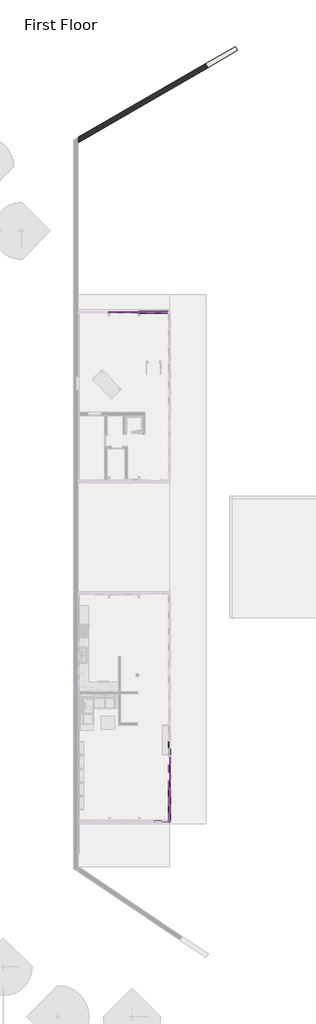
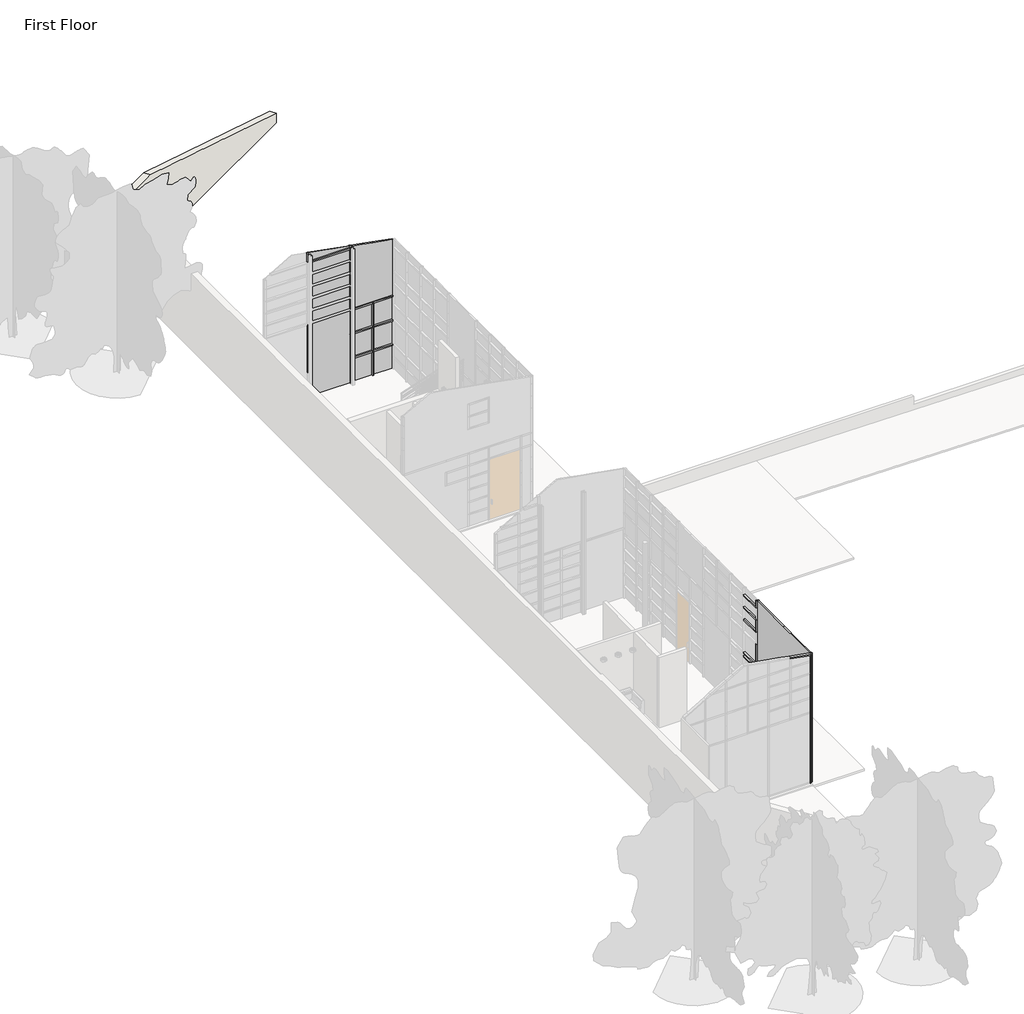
# One storey, part 4 of 9: 83 members, 28 plates, 1 wall.
"""IFC4 building model written with IfcOpenShell, lengths in millimetres."""

from ifc_helpers import new_model, si_unit, origin, place, context, project, spatial, faceted_brep, transform, mapped, element, save
from components import rectangular_mullion_rectangular_mullion_1_d8954efc, rectangular_mullion_rectangular_mullion_1_ae5c687b, rectangular_mullion_rectangular_mullion_1_99cf9c75, rectangular_mullion_rectangular_mullion_1_30cce679, rectangular_mullion_rectangular_mullion_1_136a39fb, rectangular_mullion_rectangular_mullion_1_6590179b, rectangular_mullion_rectangular_mullion_1_783bfc0b, rectangular_mullion_rectangular_mullion_1_92514b8e, rectangular_mullion_rectangular_mullion_1_1f17a5e5, rectangular_mullion_rectangular_mullion_1_1cede359, rectangular_mullion_rectangular_mullion_1_8c79227d, rectangular_mullion_rectangular_mullion_1_871cc721, rectangular_mullion_rectangular_mullion_1_6e77e263, rectangular_mullion_rectangular_mullion_1_eb8fac3f, rectangular_mullion_rectangular_mullion_1_9a090e39, rectangular_mullion_rectangular_mullion_1_7c80449b, rectangular_mullion_rectangular_mullion_1_45287f10, rectangular_mullion_rectangular_mullion_1_2b49869a, rectangular_mullion_rectangular_mullion_1_a0a52acd, rectangular_mullion_rectangular_mullion_1_47bfaf8a, rectangular_mullion_rectangular_mullion_1_ec152034, rectangular_mullion_rectangular_mullion_1_d7ed0fb9, rectangular_mullion_rectangular_mullion_1_9d77b909, rectangular_mullion_rectangular_mullion_1_f2e3b31c, rectangular_mullion_rectangular_mullion_1_c5a7d1f2, rectangular_mullion_rectangular_mullion_1_0b7f9064, system_panel_glazed_373d86ac, system_panel_glazed_eecd68d4, system_panel_glazed_8c85efa3, system_panel_glazed_14bd28ca, system_panel_glazed_82a64896, system_panel_glazed_041fdfaf, system_panel_glazed_c7baee26, system_panel_glazed_ae41f1da, system_panel_glazed_664bf825, system_panel_glazed_dff80833, system_panel_glazed_a1854eb2, system_panel_glazed_2ec935a0, system_panel_glazed_f1ae0be2, system_panel_glazed_68a4d442, system_panel_glazed_40caf1cd, system_panel_glazed_62b14354, system_panel_solid_red_bf65e7b4, system_panel_solid_white_665c4a0c, system_panel_solid_white_46dfe60e

model = new_model("IFC4")

# Units and contexts
model_context = context("Model", 3, world=origin())
ifc_project = project(units=[si_unit("LENGTHUNIT", "METRE", prefix="MILLI")], contexts=[model_context])

# Site, building, storey
site = spatial("IfcSite", under=ifc_project)
building = spatial("IfcBuilding", under=site)
storey = spatial("IfcBuildingStorey", under=building, Name="First Floor", Elevation=0.0)

# Members
placement = place(None, origin())
rectangular_mullion_rectangular_mullion_1_shape = rectangular_mullion_rectangular_mullion_1_d8954efc(model_context)
element("IfcMember", 1, ObjectType="Rectangular Mullion : Rectangular Mullion 1", at=placement, inside=storey, context=model_context, shape_type="MappedRepresentation", body=[
    mapped(rectangular_mullion_rectangular_mullion_1_shape, transform((-2042.7901664, 35648.7084583, 6705.6), x_axis=(-1.0, 0.0, 0.0), y_axis=(0.0, 1.0, 0.0), z_axis=(0.0, 0.0, -1.0))),
])
rectangular_mullion_rectangular_mullion_1_2_shape = rectangular_mullion_rectangular_mullion_1_ae5c687b(model_context)
element("IfcMember", 2, ObjectType="Rectangular Mullion : Rectangular Mullion 1", at=placement, inside=storey, context=model_context, shape_type="MappedRepresentation", body=[
    mapped(rectangular_mullion_rectangular_mullion_1_2_shape, transform((-4062.0901664, 35648.7084583, 6705.6), x_axis=(-1.0, 0.0, 0.0), y_axis=(0.0, 1.0, 0.0), z_axis=(0.0, 0.0, -1.0))),
])
rectangular_mullion_rectangular_mullion_1_3_shape = rectangular_mullion_rectangular_mullion_1_99cf9c75(model_context)
element("IfcMember", 3, ObjectType="Rectangular Mullion : Rectangular Mullion 1", at=placement, inside=storey, context=model_context, shape_type="MappedRepresentation", body=[
    mapped(rectangular_mullion_rectangular_mullion_1_3_shape, transform((-2042.7901664, 35648.7084583, 3647.5475583), x_axis=(-1.0, 0.0, 0.0), y_axis=(0.0, 1.0, 0.0), z_axis=(0.0, 0.0, -1.0))),
])
rectangular_mullion_rectangular_mullion_1_4_shape = rectangular_mullion_rectangular_mullion_1_30cce679(model_context)
element("IfcMember", 4, ObjectType="Rectangular Mullion : Rectangular Mullion 1", at=placement, inside=storey, context=model_context, shape_type="MappedRepresentation", body=[
    mapped(rectangular_mullion_rectangular_mullion_1_4_shape, transform((-989.7484998, 35648.7084583, 2438.4), x_axis=(-1.0, 0.0, 0.0), y_axis=(0.0, 1.0, 0.0), z_axis=(0.0, 0.0, -1.0))),
])
rectangular_mullion_rectangular_mullion_1_5_shape = rectangular_mullion_rectangular_mullion_1_136a39fb(model_context)
element("IfcMember", 5, ObjectType="Rectangular Mullion : Rectangular Mullion 1", at=placement, inside=storey, context=model_context, shape_type="MappedRepresentation", body=[
    mapped(rectangular_mullion_rectangular_mullion_1_5_shape, transform((-2042.7901664, 35648.7084583, 2438.4), x_axis=(-1.0, 0.0, 0.0), y_axis=(0.0, 1.0, 0.0), z_axis=(0.0, 0.0, -1.0))),
])
element("IfcMember", 6, ObjectType="Rectangular Mullion : Rectangular Mullion 1", at=placement, inside=storey, context=model_context, shape_type="MappedRepresentation", body=[
    mapped(rectangular_mullion_rectangular_mullion_1_5_shape, transform((-4062.0901664, 35648.7084583, 2438.4), x_axis=(-1.0, 0.0, 0.0), y_axis=(0.0, 1.0, 0.0), z_axis=(0.0, 0.0, -1.0))),
])
rectangular_mullion_rectangular_mullion_1_6_shape = rectangular_mullion_rectangular_mullion_1_6590179b(model_context)
element("IfcMember", 7, ObjectType="Rectangular Mullion : Rectangular Mullion 1", at=placement, inside=storey, context=model_context, shape_type="MappedRepresentation", body=[
    mapped(rectangular_mullion_rectangular_mullion_1_6_shape, transform((8.2598336, 5879.0013154, 3219.3104781), x_axis=(0.0, -1.0, 0.0), y_axis=(-1.0, 0.0, 0.0), z_axis=(0.0, 0.0, -1.0))),
])
rectangular_mullion_rectangular_mullion_1_7_shape = rectangular_mullion_rectangular_mullion_1_783bfc0b(model_context)
element("IfcMember", 8, ObjectType="Rectangular Mullion : Rectangular Mullion 1", at=placement, inside=storey, context=model_context, shape_type="MappedRepresentation", body=[
    mapped(rectangular_mullion_rectangular_mullion_1_7_shape, transform((8.2598336, 5879.0013154, 3048.0), x_axis=(0.0, -1.0, 0.0), y_axis=(-1.0, 0.0, 0.0), z_axis=(0.0, 0.0, -1.0))),
])
rectangular_mullion_rectangular_mullion_1_8_shape = rectangular_mullion_rectangular_mullion_1_92514b8e(model_context)
element("IfcMember", 9, ObjectType="Rectangular Mullion : Rectangular Mullion 1", at=placement, inside=storey, context=model_context, shape_type="MappedRepresentation", body=[
    mapped(rectangular_mullion_rectangular_mullion_1_8_shape, transform((8.2598336, 3710.9298869, 3048.0), x_axis=(0.0, -1.0, 0.0), y_axis=(-1.0, 0.0, 0.0), z_axis=(0.0, 0.0, -1.0))),
])
element("IfcMember", 10, ObjectType="Rectangular Mullion : Rectangular Mullion 1", at=placement, inside=storey, context=model_context, shape_type="MappedRepresentation", body=[
    mapped(rectangular_mullion_rectangular_mullion_1_8_shape, transform((8.2598336, 2588.3406011, 3048.0), x_axis=(0.0, -1.0, 0.0), y_axis=(-1.0, 0.0, 0.0), z_axis=(0.0, 0.0, -1.0))),
])
rectangular_mullion_rectangular_mullion_1_9_shape = rectangular_mullion_rectangular_mullion_1_1f17a5e5(model_context)
element("IfcMember", 11, ObjectType="Rectangular Mullion : Rectangular Mullion 1", at=placement, inside=storey, context=model_context, shape_type="MappedRepresentation", body=[
    mapped(rectangular_mullion_rectangular_mullion_1_9_shape, transform((8.2598336, 5879.0013154, 6096.0), x_axis=(0.0, -1.0, 0.0), y_axis=(-1.0, 0.0, 0.0), z_axis=(0.0, 0.0, -1.0))),
])
rectangular_mullion_rectangular_mullion_1_10_shape = rectangular_mullion_rectangular_mullion_1_1cede359(model_context)
element("IfcMember", 12, ObjectType="Rectangular Mullion : Rectangular Mullion 1", at=placement, inside=storey, context=model_context, shape_type="MappedRepresentation", body=[
    mapped(rectangular_mullion_rectangular_mullion_1_10_shape, transform((8.2598336, 1511.1084583, 6096.0), x_axis=(0.0, -1.0, 0.0), y_axis=(-1.0, 0.0, 0.0), z_axis=(0.0, 0.0, -1.0))),
])
rectangular_mullion_rectangular_mullion_1_11_shape = rectangular_mullion_rectangular_mullion_1_8c79227d(model_context)
element("IfcMember", 13, ObjectType="Rectangular Mullion : Rectangular Mullion 1", at=placement, inside=storey, context=model_context, shape_type="MappedRepresentation", body=[
    mapped(rectangular_mullion_rectangular_mullion_1_11_shape, transform((8.2598336, 1511.1084583, 3048.0), x_axis=(0.0, -1.0, 0.0), y_axis=(-1.0, 0.0, 0.0), z_axis=(0.0, 0.0, -1.0))),
])
rectangular_mullion_rectangular_mullion_1_12_shape = rectangular_mullion_rectangular_mullion_1_871cc721(model_context)
element("IfcMember", 14, ObjectType="Rectangular Mullion : Rectangular Mullion 1", at=placement, inside=storey, context=model_context, shape_type="MappedRepresentation", body=[
    mapped(rectangular_mullion_rectangular_mullion_1_12_shape, transform((8.2598336, 1511.1084583, 3219.3104781), x_axis=(0.0, -1.0, 0.0), y_axis=(-1.0, 0.0, 0.0), z_axis=(0.0, 0.0, -1.0))),
])
rectangular_mullion_rectangular_mullion_1_13_shape = rectangular_mullion_rectangular_mullion_1_6e77e263(model_context)
element("IfcMember", 15, ObjectType="Rectangular Mullion : Rectangular Mullion 1", at=placement, inside=storey, context=model_context, shape_type="MappedRepresentation", body=[
    mapped(rectangular_mullion_rectangular_mullion_1_13_shape, transform((8.2598336, 5879.0013154, 2438.4), x_axis=(0.0, -1.0, 0.0), y_axis=(-1.0, 0.0, 0.0), z_axis=(0.0, 0.0, -1.0))),
])
element("IfcMember", 16, ObjectType="Rectangular Mullion : Rectangular Mullion 1", at=placement, inside=storey, context=model_context, shape_type="MappedRepresentation", body=[
    mapped(rectangular_mullion_rectangular_mullion_1_13_shape, transform((8.2598336, 3710.9298869, 2438.4), x_axis=(0.0, -1.0, 0.0), y_axis=(-1.0, 0.0, 0.0), z_axis=(0.0, 0.0, -1.0))),
])
element("IfcMember", 17, ObjectType="Rectangular Mullion : Rectangular Mullion 1", at=placement, inside=storey, context=model_context, shape_type="MappedRepresentation", body=[
    mapped(rectangular_mullion_rectangular_mullion_1_13_shape, transform((8.2598336, 2588.3406011, 2438.4), x_axis=(0.0, -1.0, 0.0), y_axis=(-1.0, 0.0, 0.0), z_axis=(0.0, 0.0, -1.0))),
])
element("IfcMember", 18, ObjectType="Rectangular Mullion : Rectangular Mullion 1", at=placement, inside=storey, context=model_context, shape_type="MappedRepresentation", body=[
    mapped(rectangular_mullion_rectangular_mullion_1_13_shape, transform((8.2598336, 5879.0013154, 1219.2), x_axis=(0.0, -1.0, 0.0), y_axis=(-1.0, 0.0, 0.0), z_axis=(0.0, 0.0, -1.0))),
])
element("IfcMember", 19, ObjectType="Rectangular Mullion : Rectangular Mullion 1", at=placement, inside=storey, context=model_context, shape_type="MappedRepresentation", body=[
    mapped(rectangular_mullion_rectangular_mullion_1_13_shape, transform((8.2598336, 3710.9298869, 1219.2), x_axis=(0.0, -1.0, 0.0), y_axis=(-1.0, 0.0, 0.0), z_axis=(0.0, 0.0, -1.0))),
])
element("IfcMember", 20, ObjectType="Rectangular Mullion : Rectangular Mullion 1", at=placement, inside=storey, context=model_context, shape_type="MappedRepresentation", body=[
    mapped(rectangular_mullion_rectangular_mullion_1_13_shape, transform((8.2598336, 2588.3406011, 1219.2), x_axis=(0.0, -1.0, 0.0), y_axis=(-1.0, 0.0, 0.0), z_axis=(0.0, 0.0, -1.0))),
])
element("IfcMember", 21, ObjectType="Rectangular Mullion : Rectangular Mullion 1", at=placement, inside=storey, context=model_context, shape_type="MappedRepresentation", body=[
    mapped(rectangular_mullion_rectangular_mullion_1_13_shape, transform((8.2598336, 5879.0013154, 1828.8), x_axis=(0.0, -1.0, 0.0), y_axis=(-1.0, 0.0, 0.0), z_axis=(0.0, 0.0, -1.0))),
])
element("IfcMember", 22, ObjectType="Rectangular Mullion : Rectangular Mullion 1", at=placement, inside=storey, context=model_context, shape_type="MappedRepresentation", body=[
    mapped(rectangular_mullion_rectangular_mullion_1_13_shape, transform((8.2598336, 3710.9298869, 1828.8), x_axis=(0.0, -1.0, 0.0), y_axis=(-1.0, 0.0, 0.0), z_axis=(0.0, 0.0, -1.0))),
])
element("IfcMember", 23, ObjectType="Rectangular Mullion : Rectangular Mullion 1", at=placement, inside=storey, context=model_context, shape_type="MappedRepresentation", body=[
    mapped(rectangular_mullion_rectangular_mullion_1_13_shape, transform((8.2598336, 2588.3406011, 1828.8), x_axis=(0.0, -1.0, 0.0), y_axis=(-1.0, 0.0, 0.0), z_axis=(0.0, 0.0, -1.0))),
])
element("IfcMember", 24, ObjectType="Rectangular Mullion : Rectangular Mullion 1", at=placement, inside=storey, context=model_context, shape_type="MappedRepresentation", body=[
    mapped(rectangular_mullion_rectangular_mullion_1_13_shape, transform((8.2598336, 5879.0013154, 609.6), x_axis=(0.0, -1.0, 0.0), y_axis=(-1.0, 0.0, 0.0), z_axis=(0.0, 0.0, -1.0))),
])
element("IfcMember", 25, ObjectType="Rectangular Mullion : Rectangular Mullion 1", at=placement, inside=storey, context=model_context, shape_type="MappedRepresentation", body=[
    mapped(rectangular_mullion_rectangular_mullion_1_13_shape, transform((8.2598336, 3710.9298869, 609.6), x_axis=(0.0, -1.0, 0.0), y_axis=(-1.0, 0.0, 0.0), z_axis=(0.0, 0.0, -1.0))),
])
element("IfcMember", 26, ObjectType="Rectangular Mullion : Rectangular Mullion 1", at=placement, inside=storey, context=model_context, shape_type="MappedRepresentation", body=[
    mapped(rectangular_mullion_rectangular_mullion_1_13_shape, transform((8.2598336, 2588.3406011, 609.6), x_axis=(0.0, -1.0, 0.0), y_axis=(-1.0, 0.0, 0.0), z_axis=(0.0, 0.0, -1.0))),
])
element("IfcMember", 27, ObjectType="Rectangular Mullion : Rectangular Mullion 1", at=placement, inside=storey, context=model_context, shape_type="MappedRepresentation", body=[
    mapped(rectangular_mullion_rectangular_mullion_1_13_shape, transform((8.2598336, 5879.0013154, 4876.8), x_axis=(0.0, -1.0, 0.0), y_axis=(-1.0, 0.0, 0.0), z_axis=(0.0, 0.0, -1.0))),
])
element("IfcMember", 28, ObjectType="Rectangular Mullion : Rectangular Mullion 1", at=placement, inside=storey, context=model_context, shape_type="MappedRepresentation", body=[
    mapped(rectangular_mullion_rectangular_mullion_1_13_shape, transform((8.2598336, 5879.0013154, 0.0), x_axis=(0.0, -1.0, 0.0), y_axis=(-1.0, 0.0, 0.0), z_axis=(0.0, 0.0, -1.0))),
])
element("IfcMember", 29, ObjectType="Rectangular Mullion : Rectangular Mullion 1", at=placement, inside=storey, context=model_context, shape_type="MappedRepresentation", body=[
    mapped(rectangular_mullion_rectangular_mullion_1_13_shape, transform((8.2598336, 3710.9298869, 0.0), x_axis=(0.0, -1.0, 0.0), y_axis=(-1.0, 0.0, 0.0), z_axis=(0.0, 0.0, -1.0))),
])
element("IfcMember", 30, ObjectType="Rectangular Mullion : Rectangular Mullion 1", at=placement, inside=storey, context=model_context, shape_type="MappedRepresentation", body=[
    mapped(rectangular_mullion_rectangular_mullion_1_13_shape, transform((8.2598336, 2588.3406011, 0.0), x_axis=(0.0, -1.0, 0.0), y_axis=(-1.0, 0.0, 0.0), z_axis=(0.0, 0.0, -1.0))),
])
rectangular_mullion_rectangular_mullion_1_14_shape = rectangular_mullion_rectangular_mullion_1_eb8fac3f(model_context)
element("IfcMember", 31, ObjectType="Rectangular Mullion : Rectangular Mullion 1", at=placement, inside=storey, context=model_context, shape_type="MappedRepresentation", body=[
    mapped(rectangular_mullion_rectangular_mullion_1_14_shape, transform((8.2598336, 1511.1084583, 6438.6209562), x_axis=(0.17364817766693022, 0.0, 0.9848077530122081), y_axis=(0.0, -1.0, 0.0), z_axis=(0.9848077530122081, 0.0, -0.17364817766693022))),
])
rectangular_mullion_rectangular_mullion_1_15_shape = rectangular_mullion_rectangular_mullion_1_9a090e39(model_context)
element("IfcMember", 32, ObjectType="Rectangular Mullion : Rectangular Mullion 1", at=placement, inside=storey, context=model_context, shape_type="MappedRepresentation", body=[
    mapped(rectangular_mullion_rectangular_mullion_1_15_shape, transform((8.2598336, 1511.1084583, 6096.0), x_axis=(1.0, 0.0, 0.0), y_axis=(0.0, -1.0, 0.0), z_axis=(0.0, 0.0, -1.0))),
])
rectangular_mullion_rectangular_mullion_1_16_shape = rectangular_mullion_rectangular_mullion_1_7c80449b(model_context)
element("IfcMember", 33, ObjectType="Rectangular Mullion : Rectangular Mullion 1", at=placement, inside=storey, context=model_context, shape_type="MappedRepresentation", body=[
    mapped(rectangular_mullion_rectangular_mullion_1_16_shape, transform((8.2598336, 1511.1084583, 3533.2473635), x_axis=(1.0, 0.0, 0.0), y_axis=(0.0, -1.0, 0.0), z_axis=(0.0, 0.0, -1.0))),
])
rectangular_mullion_rectangular_mullion_1_17_shape = rectangular_mullion_rectangular_mullion_1_45287f10(model_context)
element("IfcMember", 34, ObjectType="Rectangular Mullion : Rectangular Mullion 1", at=placement, inside=storey, context=model_context, shape_type="MappedRepresentation", body=[
    mapped(rectangular_mullion_rectangular_mullion_1_17_shape, transform((8.2598336, 1511.1084583, 0.0), x_axis=(1.0, 0.0, 0.0), y_axis=(0.0, -1.0, 0.0), z_axis=(0.0, 0.0, -1.0))),
])
rectangular_mullion_rectangular_mullion_1_18_shape = rectangular_mullion_rectangular_mullion_1_2b49869a(model_context)
element("IfcMember", 35, ObjectType="Rectangular Mullion : Rectangular Mullion 1", at=placement, inside=storey, context=model_context, shape_type="MappedRepresentation", body=[
    mapped(rectangular_mullion_rectangular_mullion_1_18_shape, transform((-989.7484998, 35648.7084583, 1219.2), x_axis=(-1.0, 0.0, 0.0), y_axis=(0.0, 1.0, 0.0), z_axis=(0.0, 0.0, -1.0))),
])
element("IfcMember", 36, ObjectType="Rectangular Mullion : Rectangular Mullion 1", at=placement, inside=storey, context=model_context, shape_type="MappedRepresentation", body=[
    mapped(rectangular_mullion_rectangular_mullion_1_18_shape, transform((-2042.7901664, 35648.7084583, 1219.2), x_axis=(-1.0, 0.0, 0.0), y_axis=(0.0, 1.0, 0.0), z_axis=(0.0, 0.0, -1.0))),
])
element("IfcMember", 37, ObjectType="Rectangular Mullion : Rectangular Mullion 1", at=placement, inside=storey, context=model_context, shape_type="MappedRepresentation", body=[
    mapped(rectangular_mullion_rectangular_mullion_1_13_shape, transform((-2042.7901664, 35648.7084583, 6096.0), x_axis=(-1.0, 0.0, 0.0), y_axis=(0.0, 1.0, 0.0), z_axis=(0.0, 0.0, -1.0))),
])
element("IfcMember", 38, ObjectType="Rectangular Mullion : Rectangular Mullion 1", at=placement, inside=storey, context=model_context, shape_type="MappedRepresentation", body=[
    mapped(rectangular_mullion_rectangular_mullion_1_13_shape, transform((-2042.7901664, 35648.7084583, 4876.8), x_axis=(-1.0, 0.0, 0.0), y_axis=(0.0, 1.0, 0.0), z_axis=(0.0, 0.0, -1.0))),
])
element("IfcMember", 39, ObjectType="Rectangular Mullion : Rectangular Mullion 1", at=placement, inside=storey, context=model_context, shape_type="MappedRepresentation", body=[
    mapped(rectangular_mullion_rectangular_mullion_1_13_shape, transform((-2042.7901664, 35648.7084583, 5486.4), x_axis=(-1.0, 0.0, 0.0), y_axis=(0.0, 1.0, 0.0), z_axis=(0.0, 0.0, -1.0))),
])
element("IfcMember", 40, ObjectType="Rectangular Mullion : Rectangular Mullion 1", at=placement, inside=storey, context=model_context, shape_type="MappedRepresentation", body=[
    mapped(rectangular_mullion_rectangular_mullion_1_13_shape, transform((-2042.7901664, 35648.7084583, 4267.2), x_axis=(-1.0, 0.0, 0.0), y_axis=(0.0, 1.0, 0.0), z_axis=(0.0, 0.0, -1.0))),
])
element("IfcMember", 41, ObjectType="Rectangular Mullion : Rectangular Mullion 1", at=placement, inside=storey, context=model_context, shape_type="MappedRepresentation", body=[
    mapped(rectangular_mullion_rectangular_mullion_1_18_shape, transform((-2042.7901664, 35648.7084583, 0.0), x_axis=(-1.0, 0.0, 0.0), y_axis=(0.0, 1.0, 0.0), z_axis=(0.0, 0.0, -1.0))),
])
element("IfcMember", 42, ObjectType="Rectangular Mullion : Rectangular Mullion 1", at=placement, inside=storey, context=model_context, shape_type="MappedRepresentation", body=[
    mapped(rectangular_mullion_rectangular_mullion_1_18_shape, transform((-989.7484998, 35648.7084583, 0.0), x_axis=(-1.0, 0.0, 0.0), y_axis=(0.0, 1.0, 0.0), z_axis=(0.0, 0.0, -1.0))),
])
element("IfcMember", 43, ObjectType="Rectangular Mullion : Rectangular Mullion 1", at=placement, inside=storey, context=model_context, shape_type="MappedRepresentation", body=[
    mapped(rectangular_mullion_rectangular_mullion_1_18_shape, transform((-4062.0901664, 35648.7084583, 1219.2), x_axis=(-1.0, 0.0, 0.0), y_axis=(0.0, 1.0, 0.0), z_axis=(0.0, 0.0, -1.0))),
])
rectangular_mullion_rectangular_mullion_1_19_shape = rectangular_mullion_rectangular_mullion_1_a0a52acd(model_context)
element("IfcMember", 44, ObjectType="Rectangular Mullion : Rectangular Mullion 1", at=placement, inside=storey, context=model_context, shape_type="MappedRepresentation", body=[
    mapped(rectangular_mullion_rectangular_mullion_1_19_shape, transform((-957.9984998, 35648.7084583, 3647.5475583), x_axis=(0.0, 0.0, 1.0), y_axis=(0.0, 1.0, 0.0), z_axis=(-1.0, 0.0, 0.0))),
])
element("IfcMember", 45, ObjectType="Rectangular Mullion : Rectangular Mullion 1", at=placement, inside=storey, context=model_context, shape_type="MappedRepresentation", body=[
    mapped(rectangular_mullion_rectangular_mullion_1_19_shape, transform((-957.9984998, 35648.7084583, 2438.4), x_axis=(0.0, 0.0, 1.0), y_axis=(0.0, 1.0, 0.0), z_axis=(-1.0, 0.0, 0.0))),
])
element("IfcMember", 46, ObjectType="Rectangular Mullion : Rectangular Mullion 1", at=placement, inside=storey, context=model_context, shape_type="MappedRepresentation", body=[
    mapped(rectangular_mullion_rectangular_mullion_1_19_shape, transform((-957.9984998, 35648.7084583, 1219.2), x_axis=(0.0, 0.0, 1.0), y_axis=(0.0, 1.0, 0.0), z_axis=(-1.0, 0.0, 0.0))),
])
rectangular_mullion_rectangular_mullion_1_20_shape = rectangular_mullion_rectangular_mullion_1_47bfaf8a(model_context)
element("IfcMember", 47, ObjectType="Rectangular Mullion : Rectangular Mullion 1", at=placement, inside=storey, context=model_context, shape_type="MappedRepresentation", body=[
    mapped(rectangular_mullion_rectangular_mullion_1_20_shape, transform((8.2598336, 1511.1084583, 4267.2), x_axis=(1.0, 0.0, 0.0), y_axis=(0.0, -1.0, 0.0), z_axis=(0.0, 0.0, -1.0))),
])
element("IfcMember", 48, ObjectType="Rectangular Mullion : Rectangular Mullion 1", at=placement, inside=storey, context=model_context, shape_type="MappedRepresentation", body=[
    mapped(rectangular_mullion_rectangular_mullion_1_20_shape, transform((8.2598336, 1511.1084583, 5486.4), x_axis=(1.0, 0.0, 0.0), y_axis=(0.0, -1.0, 0.0), z_axis=(0.0, 0.0, -1.0))),
])
element("IfcMember", 49, ObjectType="Rectangular Mullion : Rectangular Mullion 1", at=placement, inside=storey, context=model_context, shape_type="MappedRepresentation", body=[
    mapped(rectangular_mullion_rectangular_mullion_1_20_shape, transform((8.2598336, 1511.1084583, 4876.8), x_axis=(1.0, 0.0, 0.0), y_axis=(0.0, -1.0, 0.0), z_axis=(0.0, 0.0, -1.0))),
])
rectangular_mullion_rectangular_mullion_1_21_shape = rectangular_mullion_rectangular_mullion_1_ec152034(model_context)
element("IfcMember", 50, ObjectType="Rectangular Mullion : Rectangular Mullion 1", at=placement, inside=storey, context=model_context, shape_type="MappedRepresentation", body=[
    mapped(rectangular_mullion_rectangular_mullion_1_21_shape, transform((8.2598336, 5910.7513154, 3219.3104781), x_axis=(0.0, 0.0, 1.0), y_axis=(-1.0, 0.0, 0.0), z_axis=(0.0, -1.0, 0.0))),
])
element("IfcMember", 51, ObjectType="Rectangular Mullion : Rectangular Mullion 1", at=placement, inside=storey, context=model_context, shape_type="MappedRepresentation", body=[
    mapped(rectangular_mullion_rectangular_mullion_1_21_shape, transform((8.2598336, 5910.7513154, 2438.4), x_axis=(0.0, 0.0, 1.0), y_axis=(-1.0, 0.0, 0.0), z_axis=(0.0, -1.0, 0.0))),
])
element("IfcMember", 52, ObjectType="Rectangular Mullion : Rectangular Mullion 1", at=placement, inside=storey, context=model_context, shape_type="MappedRepresentation", body=[
    mapped(rectangular_mullion_rectangular_mullion_1_21_shape, transform((8.2598336, 5910.7513154, 1219.2), x_axis=(0.0, 0.0, 1.0), y_axis=(-1.0, 0.0, 0.0), z_axis=(0.0, -1.0, 0.0))),
])
element("IfcMember", 53, ObjectType="Rectangular Mullion : Rectangular Mullion 1", at=placement, inside=storey, context=model_context, shape_type="MappedRepresentation", body=[
    mapped(rectangular_mullion_rectangular_mullion_1_21_shape, transform((8.2598336, 5910.7513154, 3048.0), x_axis=(0.0, 0.0, 1.0), y_axis=(-1.0, 0.0, 0.0), z_axis=(0.0, -1.0, 0.0))),
])
element("IfcMember", 54, ObjectType="Rectangular Mullion : Rectangular Mullion 1", at=placement, inside=storey, context=model_context, shape_type="MappedRepresentation", body=[
    mapped(rectangular_mullion_rectangular_mullion_1_21_shape, transform((8.2598336, 5910.7513154, 1828.8), x_axis=(0.0, 0.0, 1.0), y_axis=(-1.0, 0.0, 0.0), z_axis=(0.0, -1.0, 0.0))),
])
element("IfcMember", 55, ObjectType="Rectangular Mullion : Rectangular Mullion 1", at=placement, inside=storey, context=model_context, shape_type="MappedRepresentation", body=[
    mapped(rectangular_mullion_rectangular_mullion_1_21_shape, transform((8.2598336, 5910.7513154, 609.6), x_axis=(0.0, 0.0, 1.0), y_axis=(-1.0, 0.0, 0.0), z_axis=(0.0, -1.0, 0.0))),
])
element("IfcMember", 56, ObjectType="Rectangular Mullion : Rectangular Mullion 1", at=placement, inside=storey, context=model_context, shape_type="MappedRepresentation", body=[
    mapped(rectangular_mullion_rectangular_mullion_1_21_shape, transform((8.2598336, 5910.7513154, 6096.0), x_axis=(0.0, 0.0, 1.0), y_axis=(-1.0, 0.0, 0.0), z_axis=(0.0, -1.0, 0.0))),
])
element("IfcMember", 57, ObjectType="Rectangular Mullion : Rectangular Mullion 1", at=placement, inside=storey, context=model_context, shape_type="MappedRepresentation", body=[
    mapped(rectangular_mullion_rectangular_mullion_1_21_shape, transform((8.2598336, 5910.7513154, 4876.8), x_axis=(0.0, 0.0, 1.0), y_axis=(-1.0, 0.0, 0.0), z_axis=(0.0, -1.0, 0.0))),
])
element("IfcMember", 58, ObjectType="Rectangular Mullion : Rectangular Mullion 1", at=placement, inside=storey, context=model_context, shape_type="MappedRepresentation", body=[
    mapped(rectangular_mullion_rectangular_mullion_1_21_shape, transform((8.2598336, 5910.7513154, 5486.4), x_axis=(0.0, 0.0, 1.0), y_axis=(-1.0, 0.0, 0.0), z_axis=(0.0, -1.0, 0.0))),
])
rectangular_mullion_rectangular_mullion_1_22_shape = rectangular_mullion_rectangular_mullion_1_d7ed0fb9(model_context)
element("IfcMember", 59, ObjectType="Rectangular Mullion : Rectangular Mullion 1", at=placement, inside=storey, context=model_context, shape_type="MappedRepresentation", body=[
    mapped(rectangular_mullion_rectangular_mullion_1_22_shape, transform((8.2598336, 1574.6084583, 3219.3104781), x_axis=(0.0, 0.0, 1.0), y_axis=(-1.0, 0.0, 0.0), z_axis=(0.0, -1.0, 0.0))),
])
element("IfcMember", 60, ObjectType="Rectangular Mullion : Rectangular Mullion 1", at=placement, inside=storey, context=model_context, shape_type="MappedRepresentation", body=[
    mapped(rectangular_mullion_rectangular_mullion_1_22_shape, transform((8.2598336, 1574.6084583, 2438.4), x_axis=(0.0, 0.0, 1.0), y_axis=(-1.0, 0.0, 0.0), z_axis=(0.0, -1.0, 0.0))),
])
element("IfcMember", 61, ObjectType="Rectangular Mullion : Rectangular Mullion 1", at=placement, inside=storey, context=model_context, shape_type="MappedRepresentation", body=[
    mapped(rectangular_mullion_rectangular_mullion_1_22_shape, transform((8.2598336, 1574.6084583, 1219.2), x_axis=(0.0, 0.0, 1.0), y_axis=(-1.0, 0.0, 0.0), z_axis=(0.0, -1.0, 0.0))),
])
element("IfcMember", 62, ObjectType="Rectangular Mullion : Rectangular Mullion 1", at=placement, inside=storey, context=model_context, shape_type="MappedRepresentation", body=[
    mapped(rectangular_mullion_rectangular_mullion_1_22_shape, transform((8.2598336, 1574.6084583, 3048.0), x_axis=(0.0, 0.0, 1.0), y_axis=(-1.0, 0.0, 0.0), z_axis=(0.0, -1.0, 0.0))),
])
element("IfcMember", 63, ObjectType="Rectangular Mullion : Rectangular Mullion 1", at=placement, inside=storey, context=model_context, shape_type="MappedRepresentation", body=[
    mapped(rectangular_mullion_rectangular_mullion_1_22_shape, transform((8.2598336, 1574.6084583, 1828.8), x_axis=(0.0, 0.0, 1.0), y_axis=(-1.0, 0.0, 0.0), z_axis=(0.0, -1.0, 0.0))),
])
element("IfcMember", 64, ObjectType="Rectangular Mullion : Rectangular Mullion 1", at=placement, inside=storey, context=model_context, shape_type="MappedRepresentation", body=[
    mapped(rectangular_mullion_rectangular_mullion_1_22_shape, transform((8.2598336, 1574.6084583, 609.6), x_axis=(0.0, 0.0, 1.0), y_axis=(-1.0, 0.0, 0.0), z_axis=(0.0, -1.0, 0.0))),
])
rectangular_mullion_rectangular_mullion_1_23_shape = rectangular_mullion_rectangular_mullion_1_9d77b909(model_context)
element("IfcMember", 65, ObjectType="Rectangular Mullion : Rectangular Mullion 1", at=placement, inside=storey, context=model_context, shape_type="MappedRepresentation", body=[
    mapped(rectangular_mullion_rectangular_mullion_1_23_shape, transform((8.2598336, 3742.6798869, 3219.3104781), x_axis=(0.0, 0.0, 1.0), y_axis=(-1.0, 0.0, 0.0), z_axis=(0.0, -1.0, 0.0))),
])
rectangular_mullion_rectangular_mullion_1_24_shape = rectangular_mullion_rectangular_mullion_1_f2e3b31c(model_context)
element("IfcMember", 66, ObjectType="Rectangular Mullion : Rectangular Mullion 1", at=placement, inside=storey, context=model_context, shape_type="MappedRepresentation", body=[
    mapped(rectangular_mullion_rectangular_mullion_1_24_shape, transform((8.2598336, 2620.0906011, 3219.3104781), x_axis=(0.0, 0.0, 1.0), y_axis=(-1.0, 0.0, 0.0), z_axis=(0.0, -1.0, 0.0))),
])
element("IfcMember", 67, ObjectType="Rectangular Mullion : Rectangular Mullion 1", at=placement, inside=storey, context=model_context, shape_type="MappedRepresentation", body=[
    mapped(rectangular_mullion_rectangular_mullion_1_24_shape, transform((8.2598336, 2620.0906011, 2438.4), x_axis=(0.0, 0.0, 1.0), y_axis=(-1.0, 0.0, 0.0), z_axis=(0.0, -1.0, 0.0))),
])
element("IfcMember", 68, ObjectType="Rectangular Mullion : Rectangular Mullion 1", at=placement, inside=storey, context=model_context, shape_type="MappedRepresentation", body=[
    mapped(rectangular_mullion_rectangular_mullion_1_24_shape, transform((8.2598336, 2620.0906011, 1219.2), x_axis=(0.0, 0.0, 1.0), y_axis=(-1.0, 0.0, 0.0), z_axis=(0.0, -1.0, 0.0))),
])
element("IfcMember", 69, ObjectType="Rectangular Mullion : Rectangular Mullion 1", at=placement, inside=storey, context=model_context, shape_type="MappedRepresentation", body=[
    mapped(rectangular_mullion_rectangular_mullion_1_24_shape, transform((8.2598336, 2620.0906011, 3048.0), x_axis=(0.0, 0.0, 1.0), y_axis=(-1.0, 0.0, 0.0), z_axis=(0.0, -1.0, 0.0))),
])
element("IfcMember", 70, ObjectType="Rectangular Mullion : Rectangular Mullion 1", at=placement, inside=storey, context=model_context, shape_type="MappedRepresentation", body=[
    mapped(rectangular_mullion_rectangular_mullion_1_24_shape, transform((8.2598336, 2620.0906011, 1828.8), x_axis=(0.0, 0.0, 1.0), y_axis=(-1.0, 0.0, 0.0), z_axis=(0.0, -1.0, 0.0))),
])
element("IfcMember", 71, ObjectType="Rectangular Mullion : Rectangular Mullion 1", at=placement, inside=storey, context=model_context, shape_type="MappedRepresentation", body=[
    mapped(rectangular_mullion_rectangular_mullion_1_24_shape, transform((8.2598336, 2620.0906011, 609.6), x_axis=(0.0, 0.0, 1.0), y_axis=(-1.0, 0.0, 0.0), z_axis=(0.0, -1.0, 0.0))),
])
element("IfcMember", 72, ObjectType="Rectangular Mullion : Rectangular Mullion 1", at=placement, inside=storey, context=model_context, shape_type="MappedRepresentation", body=[
    mapped(rectangular_mullion_rectangular_mullion_1_20_shape, transform((8.2598336, 1511.1084583, 4267.2), x_axis=(0.0, -1.0, 0.0), y_axis=(-1.0, 0.0, 0.0), z_axis=(0.0, 0.0, -1.0))),
])
element("IfcMember", 73, ObjectType="Rectangular Mullion : Rectangular Mullion 1", at=placement, inside=storey, context=model_context, shape_type="MappedRepresentation", body=[
    mapped(rectangular_mullion_rectangular_mullion_1_20_shape, transform((8.2598336, 1511.1084583, 5486.4), x_axis=(0.0, -1.0, 0.0), y_axis=(-1.0, 0.0, 0.0), z_axis=(0.0, 0.0, -1.0))),
])
element("IfcMember", 74, ObjectType="Rectangular Mullion : Rectangular Mullion 1", at=placement, inside=storey, context=model_context, shape_type="MappedRepresentation", body=[
    mapped(rectangular_mullion_rectangular_mullion_1_20_shape, transform((8.2598336, 1511.1084583, 4876.8), x_axis=(0.0, -1.0, 0.0), y_axis=(-1.0, 0.0, 0.0), z_axis=(0.0, 0.0, -1.0))),
])
element("IfcMember", 75, ObjectType="Rectangular Mullion : Rectangular Mullion 1", at=placement, inside=storey, context=model_context, shape_type="MappedRepresentation", body=[
    mapped(rectangular_mullion_rectangular_mullion_1_20_shape, transform((8.2598336, 1511.1084583, 609.6), x_axis=(0.0, -1.0, 0.0), y_axis=(-1.0, 0.0, 0.0), z_axis=(0.0, 0.0, -1.0))),
])
element("IfcMember", 76, ObjectType="Rectangular Mullion : Rectangular Mullion 1", at=placement, inside=storey, context=model_context, shape_type="MappedRepresentation", body=[
    mapped(rectangular_mullion_rectangular_mullion_1_20_shape, transform((8.2598336, 1511.1084583, 1828.8), x_axis=(0.0, -1.0, 0.0), y_axis=(-1.0, 0.0, 0.0), z_axis=(0.0, 0.0, -1.0))),
])
element("IfcMember", 77, ObjectType="Rectangular Mullion : Rectangular Mullion 1", at=placement, inside=storey, context=model_context, shape_type="MappedRepresentation", body=[
    mapped(rectangular_mullion_rectangular_mullion_1_20_shape, transform((8.2598336, 1511.1084583, 1219.2), x_axis=(0.0, -1.0, 0.0), y_axis=(-1.0, 0.0, 0.0), z_axis=(0.0, 0.0, -1.0))),
])
element("IfcMember", 78, ObjectType="Rectangular Mullion : Rectangular Mullion 1", at=placement, inside=storey, context=model_context, shape_type="MappedRepresentation", body=[
    mapped(rectangular_mullion_rectangular_mullion_1_20_shape, transform((8.2598336, 1511.1084583, 2438.4), x_axis=(0.0, -1.0, 0.0), y_axis=(-1.0, 0.0, 0.0), z_axis=(0.0, 0.0, -1.0))),
])
element("IfcMember", 79, ObjectType="Rectangular Mullion : Rectangular Mullion 1", at=placement, inside=storey, context=model_context, shape_type="MappedRepresentation", body=[
    mapped(rectangular_mullion_rectangular_mullion_1_20_shape, transform((8.2598336, 1511.1084583, 0.0), x_axis=(0.0, -1.0, 0.0), y_axis=(-1.0, 0.0, 0.0), z_axis=(0.0, 0.0, -1.0))),
])
rectangular_mullion_rectangular_mullion_1_25_shape = rectangular_mullion_rectangular_mullion_1_c5a7d1f2(model_context)
element("IfcMember", 80, ObjectType="Rectangular Mullion : Rectangular Mullion 1", at=placement, inside=storey, context=model_context, shape_type="MappedRepresentation", body=[
    mapped(rectangular_mullion_rectangular_mullion_1_25_shape, transform((-4030.3401664, 35648.7084583, 6705.6), x_axis=(0.0, 0.0, 1.0), y_axis=(0.0, 1.0, 0.0), z_axis=(-1.0, 0.0, 0.0))),
])
rectangular_mullion_rectangular_mullion_1_26_shape = rectangular_mullion_rectangular_mullion_1_0b7f9064(model_context)
element("IfcMember", 81, ObjectType="Rectangular Mullion : Rectangular Mullion 1", at=placement, inside=storey, context=model_context, shape_type="MappedRepresentation", body=[
    mapped(rectangular_mullion_rectangular_mullion_1_26_shape, transform((-2011.0401664, 35648.7084583, 3647.5475583), x_axis=(0.0, 0.0, 1.0), y_axis=(0.0, 1.0, 0.0), z_axis=(-1.0, 0.0, 0.0))),
])
element("IfcMember", 82, ObjectType="Rectangular Mullion : Rectangular Mullion 1", at=placement, inside=storey, context=model_context, shape_type="MappedRepresentation", body=[
    mapped(rectangular_mullion_rectangular_mullion_1_26_shape, transform((-2011.0401664, 35648.7084583, 2438.4), x_axis=(0.0, 0.0, 1.0), y_axis=(0.0, 1.0, 0.0), z_axis=(-1.0, 0.0, 0.0))),
])
element("IfcMember", 83, ObjectType="Rectangular Mullion : Rectangular Mullion 1", at=placement, inside=storey, context=model_context, shape_type="MappedRepresentation", body=[
    mapped(rectangular_mullion_rectangular_mullion_1_26_shape, transform((-2011.0401664, 35648.7084583, 1219.2), x_axis=(0.0, 0.0, 1.0), y_axis=(0.0, 1.0, 0.0), z_axis=(-1.0, 0.0, 0.0))),
])

# Plates
system_panel_glazed_shape = system_panel_glazed_373d86ac(model_context)
element("IfcPlate", 84, ObjectType="System Panel : Glazed", at=placement, inside=storey, context=model_context, shape_type="MappedRepresentation", body=[
    mapped(system_panel_glazed_shape, transform((-3036.5651664, 35648.7084583, 6737.35), x_axis=(-1.0, 0.0, 0.0), y_axis=(0.0, -1.0, 0.0), z_axis=(0.0, 0.0, 1.0))),
])
system_panel_glazed_2_shape = system_panel_glazed_eecd68d4(model_context)
element("IfcPlate", 85, ObjectType="System Panel : Glazed", at=placement, inside=storey, context=model_context, shape_type="MappedRepresentation", body=[
    mapped(system_panel_glazed_2_shape, transform((-3052.4401664, 35648.7084583, 3679.2975583), x_axis=(-1.0, 0.0, 0.0), y_axis=(0.0, -1.0, 0.0), z_axis=(0.0, 0.0, 1.0))),
])
system_panel_glazed_3_shape = system_panel_glazed_8c85efa3(model_context)
element("IfcPlate", 86, ObjectType="System Panel : Glazed", at=placement, inside=storey, context=model_context, shape_type="MappedRepresentation", body=[
    mapped(system_panel_glazed_3_shape, transform((-506.6193331, 35648.7084583, 2470.15), x_axis=(-1.0, 0.0, 0.0), y_axis=(0.0, -1.0, 0.0), z_axis=(0.0, 0.0, 1.0))),
])
system_panel_glazed_4_shape = system_panel_glazed_14bd28ca(model_context)
element("IfcPlate", 87, ObjectType="System Panel : Glazed", at=placement, inside=storey, context=model_context, shape_type="MappedRepresentation", body=[
    mapped(system_panel_glazed_4_shape, transform((-1516.2693331, 35648.7084583, 2470.15), x_axis=(-1.0, 0.0, 0.0), y_axis=(0.0, -1.0, 0.0), z_axis=(0.0, 0.0, 1.0))),
])
system_panel_glazed_5_shape = system_panel_glazed_82a64896(model_context)
element("IfcPlate", 88, ObjectType="System Panel : Glazed", at=placement, inside=storey, context=model_context, shape_type="MappedRepresentation", body=[
    mapped(system_panel_glazed_5_shape, transform((8.2598336, 4794.9656011, 0.0), x_axis=(0.0, -1.0, 0.0), y_axis=(1.0, 0.0, 0.0), z_axis=(0.0, 0.0, 1.0))),
])
system_panel_glazed_6_shape = system_panel_glazed_041fdfaf(model_context)
element("IfcPlate", 89, ObjectType="System Panel : Glazed", at=placement, inside=storey, context=model_context, shape_type="MappedRepresentation", body=[
    mapped(system_panel_glazed_6_shape, transform((8.2598336, 2065.5995297, 3079.75), x_axis=(0.0, -1.0, 0.0), y_axis=(1.0, 0.0, 0.0), z_axis=(0.0, 0.0, 1.0))),
])
system_panel_glazed_7_shape = system_panel_glazed_c7baee26(model_context)
element("IfcPlate", 90, ObjectType="System Panel : Glazed", at=placement, inside=storey, context=model_context, shape_type="MappedRepresentation", body=[
    mapped(system_panel_glazed_7_shape, transform((8.2598336, 3149.635244, 3079.75), x_axis=(0.0, -1.0, 0.0), y_axis=(1.0, 0.0, 0.0), z_axis=(0.0, 0.0, 1.0))),
])
system_panel_glazed_8_shape = system_panel_glazed_ae41f1da(model_context)
element("IfcPlate", 91, ObjectType="System Panel : Glazed", at=placement, inside=storey, context=model_context, shape_type="MappedRepresentation", body=[
    mapped(system_panel_glazed_8_shape, transform((8.2598336, 2065.5995297, 0.0), x_axis=(0.0, -1.0, 0.0), y_axis=(1.0, 0.0, 0.0), z_axis=(0.0, 0.0, 1.0))),
])
system_panel_glazed_9_shape = system_panel_glazed_664bf825(model_context)
element("IfcPlate", 92, ObjectType="System Panel : Glazed", at=placement, inside=storey, context=model_context, shape_type="MappedRepresentation", body=[
    mapped(system_panel_glazed_9_shape, transform((8.2598336, 2065.5995297, 2470.15), x_axis=(0.0, -1.0, 0.0), y_axis=(1.0, 0.0, 0.0), z_axis=(0.0, 0.0, 1.0))),
])
element("IfcPlate", 93, ObjectType="System Panel : Glazed", at=placement, inside=storey, context=model_context, shape_type="MappedRepresentation", body=[
    mapped(system_panel_glazed_9_shape, transform((8.2598336, 2065.5995297, 1250.95), x_axis=(0.0, -1.0, 0.0), y_axis=(1.0, 0.0, 0.0), z_axis=(0.0, 0.0, 1.0))),
])
element("IfcPlate", 94, ObjectType="System Panel : Glazed", at=placement, inside=storey, context=model_context, shape_type="MappedRepresentation", body=[
    mapped(system_panel_glazed_9_shape, transform((8.2598336, 2065.5995297, 1860.55), x_axis=(0.0, -1.0, 0.0), y_axis=(1.0, 0.0, 0.0), z_axis=(0.0, 0.0, 1.0))),
])
element("IfcPlate", 95, ObjectType="System Panel : Glazed", at=placement, inside=storey, context=model_context, shape_type="MappedRepresentation", body=[
    mapped(system_panel_glazed_9_shape, transform((8.2598336, 2065.5995297, 641.35), x_axis=(0.0, -1.0, 0.0), y_axis=(1.0, 0.0, 0.0), z_axis=(0.0, 0.0, 1.0))),
])
system_panel_glazed_10_shape = system_panel_glazed_dff80833(model_context)
element("IfcPlate", 96, ObjectType="System Panel : Glazed", at=placement, inside=storey, context=model_context, shape_type="MappedRepresentation", body=[
    mapped(system_panel_glazed_10_shape, transform((8.2598336, 3149.635244, 0.0), x_axis=(0.0, -1.0, 0.0), y_axis=(1.0, 0.0, 0.0), z_axis=(0.0, 0.0, 1.0))),
])
system_panel_glazed_11_shape = system_panel_glazed_a1854eb2(model_context)
element("IfcPlate", 97, ObjectType="System Panel : Glazed", at=placement, inside=storey, context=model_context, shape_type="MappedRepresentation", body=[
    mapped(system_panel_glazed_11_shape, transform((8.2598336, 3149.635244, 2470.15), x_axis=(0.0, -1.0, 0.0), y_axis=(1.0, 0.0, 0.0), z_axis=(0.0, 0.0, 1.0))),
])
element("IfcPlate", 98, ObjectType="System Panel : Glazed", at=placement, inside=storey, context=model_context, shape_type="MappedRepresentation", body=[
    mapped(system_panel_glazed_11_shape, transform((8.2598336, 3149.635244, 1250.95), x_axis=(0.0, -1.0, 0.0), y_axis=(1.0, 0.0, 0.0), z_axis=(0.0, 0.0, 1.0))),
])
element("IfcPlate", 99, ObjectType="System Panel : Glazed", at=placement, inside=storey, context=model_context, shape_type="MappedRepresentation", body=[
    mapped(system_panel_glazed_11_shape, transform((8.2598336, 3149.635244, 1860.55), x_axis=(0.0, -1.0, 0.0), y_axis=(1.0, 0.0, 0.0), z_axis=(0.0, 0.0, 1.0))),
])
element("IfcPlate", 100, ObjectType="System Panel : Glazed", at=placement, inside=storey, context=model_context, shape_type="MappedRepresentation", body=[
    mapped(system_panel_glazed_11_shape, transform((8.2598336, 3149.635244, 641.35), x_axis=(0.0, -1.0, 0.0), y_axis=(1.0, 0.0, 0.0), z_axis=(0.0, 0.0, 1.0))),
])
system_panel_glazed_12_shape = system_panel_glazed_2ec935a0(model_context)
element("IfcPlate", 101, ObjectType="System Panel : Glazed", at=placement, inside=storey, context=model_context, shape_type="MappedRepresentation", body=[
    mapped(system_panel_glazed_12_shape, transform((-506.6193331, 35648.7084583, 0.0), x_axis=(-1.0, 0.0, 0.0), y_axis=(0.0, -1.0, 0.0), z_axis=(0.0, 0.0, 1.0))),
])
system_panel_glazed_13_shape = system_panel_glazed_f1ae0be2(model_context)
element("IfcPlate", 102, ObjectType="System Panel : Glazed", at=placement, inside=storey, context=model_context, shape_type="MappedRepresentation", body=[
    mapped(system_panel_glazed_13_shape, transform((-506.6193331, 35648.7084583, 1250.95), x_axis=(-1.0, 0.0, 0.0), y_axis=(0.0, -1.0, 0.0), z_axis=(0.0, 0.0, 1.0))),
])
system_panel_glazed_14_shape = system_panel_glazed_68a4d442(model_context)
element("IfcPlate", 103, ObjectType="System Panel : Glazed", at=placement, inside=storey, context=model_context, shape_type="MappedRepresentation", body=[
    mapped(system_panel_glazed_14_shape, transform((-3052.4401664, 35648.7084583, 6127.75), x_axis=(-1.0, 0.0, 0.0), y_axis=(0.0, -1.0, 0.0), z_axis=(0.0, 0.0, 1.0))),
])
element("IfcPlate", 104, ObjectType="System Panel : Glazed", at=placement, inside=storey, context=model_context, shape_type="MappedRepresentation", body=[
    mapped(system_panel_glazed_14_shape, transform((-3052.4401664, 35648.7084583, 4908.55), x_axis=(-1.0, 0.0, 0.0), y_axis=(0.0, -1.0, 0.0), z_axis=(0.0, 0.0, 1.0))),
])
element("IfcPlate", 105, ObjectType="System Panel : Glazed", at=placement, inside=storey, context=model_context, shape_type="MappedRepresentation", body=[
    mapped(system_panel_glazed_14_shape, transform((-3052.4401664, 35648.7084583, 5518.15), x_axis=(-1.0, 0.0, 0.0), y_axis=(0.0, -1.0, 0.0), z_axis=(0.0, 0.0, 1.0))),
])
element("IfcPlate", 106, ObjectType="System Panel : Glazed", at=placement, inside=storey, context=model_context, shape_type="MappedRepresentation", body=[
    mapped(system_panel_glazed_14_shape, transform((-3052.4401664, 35648.7084583, 4298.95), x_axis=(-1.0, 0.0, 0.0), y_axis=(0.0, -1.0, 0.0), z_axis=(0.0, 0.0, 1.0))),
])
system_panel_glazed_15_shape = system_panel_glazed_40caf1cd(model_context)
element("IfcPlate", 107, ObjectType="System Panel : Glazed", at=placement, inside=storey, context=model_context, shape_type="MappedRepresentation", body=[
    mapped(system_panel_glazed_15_shape, transform((-1516.2693331, 35648.7084583, 0.0), x_axis=(-1.0, 0.0, 0.0), y_axis=(0.0, -1.0, 0.0), z_axis=(0.0, 0.0, 1.0))),
])
system_panel_glazed_16_shape = system_panel_glazed_62b14354(model_context)
element("IfcPlate", 108, ObjectType="System Panel : Glazed", at=placement, inside=storey, context=model_context, shape_type="MappedRepresentation", body=[
    mapped(system_panel_glazed_16_shape, transform((-1516.2693331, 35648.7084583, 1250.95), x_axis=(-1.0, 0.0, 0.0), y_axis=(0.0, -1.0, 0.0), z_axis=(0.0, 0.0, 1.0))),
])
system_panel_solid_red_shape = system_panel_solid_red_bf65e7b4(model_context)
element("IfcPlate", 109, ObjectType="System Panel : Solid - Red", at=placement, inside=storey, context=model_context, shape_type="MappedRepresentation", body=[
    mapped(system_panel_solid_red_shape, transform((-1033.1401664, 35648.7084583, 3679.2975583), x_axis=(-1.0, 0.0, 0.0), y_axis=(0.0, -1.0, 0.0), z_axis=(0.0, 0.0, 1.0))),
])
system_panel_solid_white_shape = system_panel_solid_white_665c4a0c(model_context)
element("IfcPlate", 110, ObjectType="System Panel : Solid - White", at=placement, inside=storey, context=model_context, shape_type="MappedRepresentation", body=[
    mapped(system_panel_solid_white_shape, transform((-3052.4401664, 35648.7084583, 0.0), x_axis=(-1.0, 0.0, 0.0), y_axis=(0.0, -1.0, 0.0), z_axis=(0.0, 0.0, 1.0))),
])
system_panel_solid_white_2_shape = system_panel_solid_white_46dfe60e(model_context)
element("IfcPlate", 111, ObjectType="System Panel : Solid - White", at=placement, inside=storey, context=model_context, shape_type="MappedRepresentation", body=[
    mapped(system_panel_solid_white_2_shape, transform((8.2598336, 3710.9298869, 3251.0604781), x_axis=(0.0, -1.0, 0.0), y_axis=(1.0, 0.0, 0.0), z_axis=(0.0, 0.0, 1.0))),
])

# Wall
element("IfcWall", 112, ObjectType="Retaining - 12\" Concrete", at=placement, inside=storey, context=model_context, shape_type="Brep", body=[
    faceted_brep([(-6113.1401664, 47020.0496709, 0.0), (4582.4060996, 53195.1261867, 0.0), (4582.4060996, 53195.1261867, 489.2518019), (-4341.5883649, 48042.8555804, 3657.6), (-6113.1401664, 47020.0496709, 3657.6), (-6113.1401664, 47372.002395, 0.0), (-6113.1401664, 47372.002395, 3657.6), (-4493.9883649, 48306.8201235, 3657.6), (4430.0060996, 53459.0907298, 489.2518019), (4430.0060996, 53459.0907298, 0.0)], [[[0, 1, 2, 3, 4]], [[5, 6, 7, 8, 9]], [[0, 4, 6, 5]], [[1, 0, 5, 9]], [[2, 1, 9, 8]], [[4, 3, 7, 6]], [[3, 2, 8, 7]]]),
])

save(model, "model.ifc")
